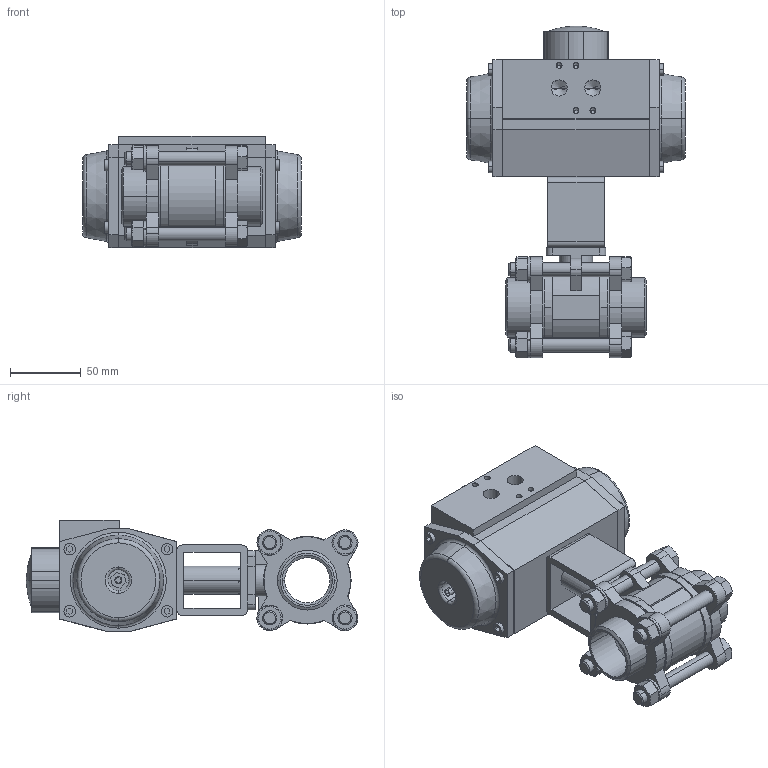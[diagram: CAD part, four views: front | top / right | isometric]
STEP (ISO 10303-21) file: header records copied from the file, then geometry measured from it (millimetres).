
FILE_DESCRIPTION (( 'STEP AP214' ), '1' );
FILE_NAME ('A13 DN32-1 1_4 BW + AP2D.STEP', '2012-04-23T09:22:23', ( '' ), ( '' ), 'SwSTEP 2.0', 'SolidWorks 2011', '' );
FILE_SCHEMA (( 'AUTOMOTIVE_DESIGN' ));
Length unit declared in the file: millimetre
Products named in the file (9): Brugstuk simplified_YB5050F4F4-3; A13 DN32 Buttweld; Hexagon Nut ISO 4032 - M10 - D - N_Hexagon Nut ISO 4032 - M10 - D - N; Spring washer DIN 128 - A10_Spring washer DIN 128 - A10; ISO 4016 - M10 x 80 x 26-NN_ISO 4016 - M10 x 80 x 26-NN; A13 Flens Buttweld DN32; A13 KK DN32 PN63; A13 DN32-1 1_4 BW + AP2D; AP2_Default<As Machined>
Assembly tree (18 placements, depth 3):
  A13 DN32-1 1_4 BW + AP2D
    Brugstuk simplified_YB5050F4F4-3
    AP2_Default<As Machined>
    A13 DN32 Buttweld
      Hexagon Nut ISO 4032 - M10 - D - N_Hexagon Nut ISO 4032 - M10 - D - N  x4
      ISO 4016 - M10 x 80 x 26-NN_ISO 4016 - M10 x 80 x 26-NN  x4
      Spring washer DIN 128 - A10_Spring washer DIN 128 - A10  x4
      A13 KK DN32 PN63
      A13 Flens Buttweld DN32  x2
Bounding box: 155 x 235.42 x 79 mm (x, y, z)
Volume: 1114440 mm3; surface area: 166040.8 mm2
Topology: 24 solids, 24 shells, 680 faces, 1604 edges, 1001 vertices
Faces by surface type: plane 322, cylinder 192, cone 144, torus 20, sphere 2
Entity records: 15332 total; most frequent: CARTESIAN_POINT 2636, DIRECTION 2413, ORIENTED_EDGE 2222, EDGE_CURVE 1111, AXIS2_PLACEMENT_3D 850, VERTEX_POINT 719, VECTOR 713, LINE 713
